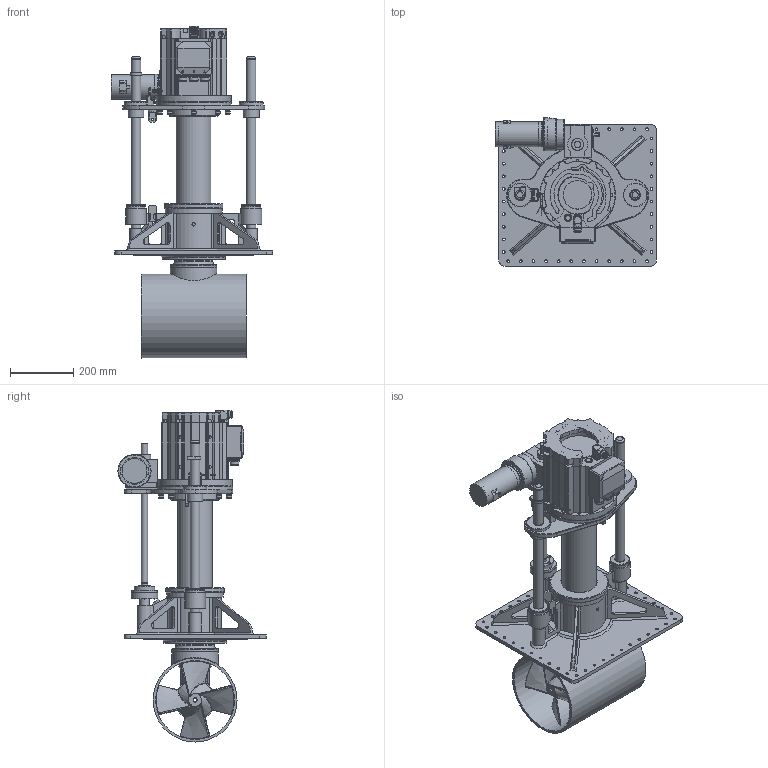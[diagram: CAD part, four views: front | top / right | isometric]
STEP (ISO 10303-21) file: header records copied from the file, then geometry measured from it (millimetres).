
FILE_DESCRIPTION(/* description */ (''),/* implementation_level */ '2;1');
FILE_NAME(/* name */ 'Q:\THRUSTERS\THRUSTER SALES & SUPPORT DOCS\THRUSTER Sales\E-V\E-0250-V\E-0250-V-RETRACTED.stp',/* time_stamp */ '2021-03-03T14:43:32+00:00',/* author */ ('Barney.Webborn'),/* organization */ (''),/* preprocessor_version */ 'ST-DEVELOPER v17.2',/* originating_system */ 'Autodesk Inventor 2019',/* authorisation */ '');
FILE_SCHEMA (('AUTOMOTIVE_DESIGN { 1 0 10303 214 3 1 1 }'));
Length unit declared in the file: millimetre
Products named in the file (1): E-0250-V_Shrinkwrap_1
Bounding box: 510.2 x 469.5 x 1052.05 mm (x, y, z)
Volume: 18844350.1 mm3; surface area: 4254297.1 mm2
Topology: 83 solids, 83 shells, 3252 faces, 8392 edges, 5523 vertices
Faces by surface type: plane 1532, cylinder 1027, cone 273, bspline 241, torus 177, sphere 2
Full cylindrical faces by diameter (mm): 1.143 x17, 1.15 x3, 1.35 x3, 1.8 x3, 3.7 x1, 4 x2, 5.65 x1, 6 x1, 6.917 x1, 8.2 x2, 8.376 x20, 8.5 x58, 8.566 x2, 8.6 x6, 9 x1, 10 x9, 10.3 x6, 11 x24, 11.271 x1, 11.835 x1, 12 x1, 14 x3, 15 x11, 16 x9, 16.51 x3, 16.669 x2, 17.9 x1, 18.135 x8, 19 x1, 19.05 x1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
Entity records: 147967 total; most frequent: CARTESIAN_POINT 64013, ORIENTED_EDGE 16752, DIRECTION 16740, EDGE_CURVE 8376, AXIS2_PLACEMENT_3D 6299, VERTEX_POINT 5523, LINE 4142, VECTOR 4142
